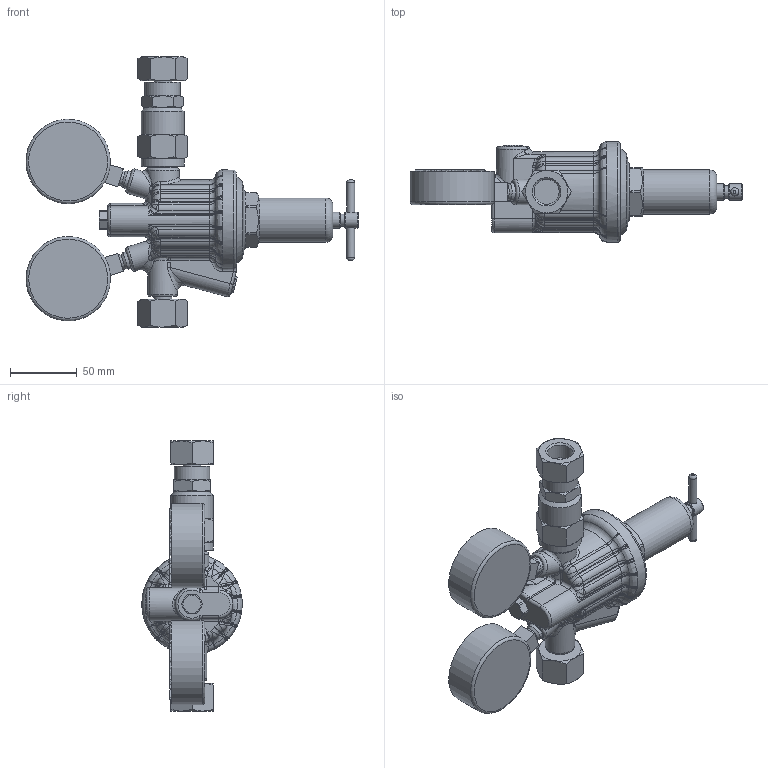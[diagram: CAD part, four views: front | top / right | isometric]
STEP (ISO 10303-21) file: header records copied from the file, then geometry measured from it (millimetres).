
FILE_DESCRIPTION(/* description */ (''),/* implementation_level */ '2;1');
FILE_NAME(/* name */ 'U:/AirCom-Produktdokumentation/Druckregler/RH/Zeichnungen/CAD-Aircom/3D/B-RH-347-5.step',/* time_stamp */ '2022-06-28T11:58:13+02:00',/* author */ (''),/* organization */ (''),/* preprocessor_version */ 'ST-DEVELOPER v19',/* originating_system */ 'Autodesk Translation Framework v11.7.0.108',/* authorisation */ '');
FILE_SCHEMA (('AUTOMOTIVE_DESIGN { 1 0 10303 214 3 1 1 }'));
Products named in the file (1): 30752701
Bounding box: 247.96 x 75 x 202 mm (x, y, z)
Volume: 604621.8 mm3; surface area: 81183.7 mm2
Topology: 1 solids, 1 shells, 1697 faces, 4358 edges, 2799 vertices
Faces by surface type: plane 848, bspline 579, cylinder 124, torus 88, cone 33, sphere 25
Full cylindrical faces by diameter (mm): 6 x3, 7 x1, 8 x1, 9 x1, 11 x2, 12 x2, 12.5 x1, 13.157 x1, 13.16 x2, 13.5 x2, 16 x2, 16.5 x1, 18.631 x2, 19 x2, 22 x1, 26.4 x1, 31.9 x2, 33 x1, 63 x2, 65 x1
Entity records: 60801 total; most frequent: CARTESIAN_POINT 21566, ORIENTED_EDGE 8674, DIRECTION 6006, EDGE_CURVE 4337, VERTEX_POINT 2799, LINE 2552, VECTOR 2552, EDGE_LOOP 1854
